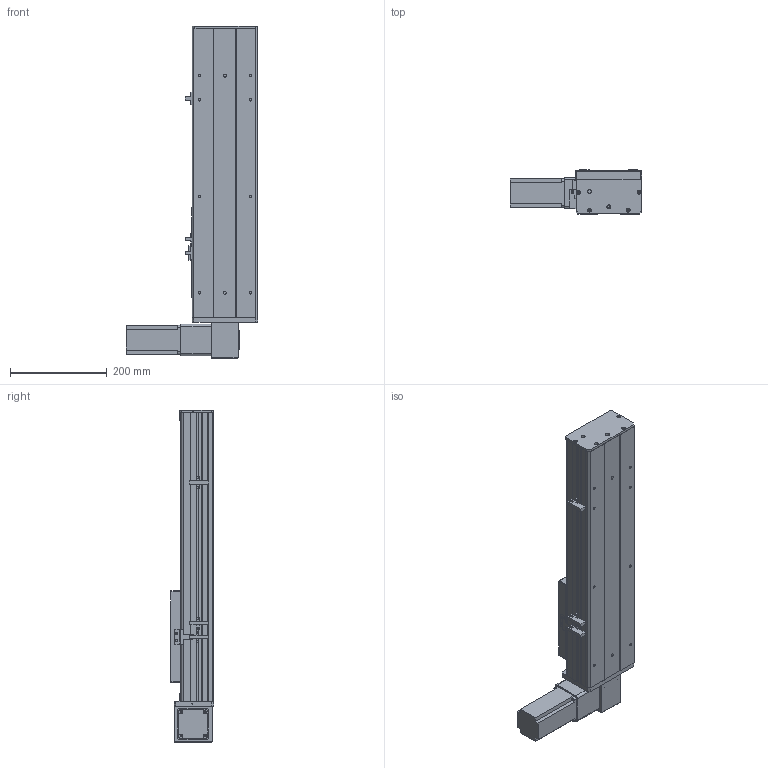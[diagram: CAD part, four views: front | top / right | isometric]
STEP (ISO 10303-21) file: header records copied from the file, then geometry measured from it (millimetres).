
FILE_DESCRIPTION (( 'STEP AP203' ), '1' );
FILE_NAME ('Y135CB-D90-S300-BD-P400W.STEP', '2020-02-19T02:52:14', ( '微软用户' ), ( '微软中国' ), 'SwSTEP 2.0', 'SolidWorks 2017', '' );
FILE_SCHEMA (( 'CONFIG_CONTROL_DESIGN' ));
Length unit declared in the file: millimetre
Products named in the file (16): 0B-源倛裔啣; Y10B--々湍喘謫眊--666; san松下电机400不带刹车----; 0B-薊粣ん眊; Y135CB-D90-S300-BD-P400W; 5CB --掛极耜裔啣-; C-詩湍揤踡え-陔; 135CB--詩湍-CE; Y135CB-耜裔; Y100-135俋离換覜ん--; 135CB---遴掛极.-; Y135C-陔俋离換覜結え-; 35CB---喘謫眊楊擘啣; 5C--俋欶; 0B-埴倛裔啣; C-雄赽釱--
Assembly tree (19 placements, depth 2):
  Y135CB-D90-S300-BD-P400W
    Y135CB-耜裔
    135CB---遴掛极.-
    35CB---喘謫眊楊擘啣
    0B-埴倛裔啣
    0B-源倛裔啣
    san松下电机400不带刹车----
    5CB --掛极耜裔啣-  x2
    C-詩湍揤踡え-陔  x2
    135CB--詩湍-CE
    Y100-135俋离換覜ん--  x3
    Y135C-陔俋离換覜結え-
    5C--俋欶
    C-雄赽釱--
    Y10B--々湍喘謫眊--666
    0B-薊粣ん眊
Bounding box: 272 x 91 x 688 mm (x, y, z)
Volume: 2568840.6 mm3; surface area: 942783.7 mm2
Topology: 19 solids, 19 shells, 843 faces, 2212 edges, 1464 vertices
Faces by surface type: plane 415, cylinder 412, cone 16
Entity records: 25400 total; most frequent: DIRECTION 4232, CARTESIAN_POINT 4115, ORIENTED_EDGE 3900, EDGE_CURVE 1950, AXIS2_PLACEMENT_3D 1545, VERTEX_POINT 1292, LINE 1142, VECTOR 1142
